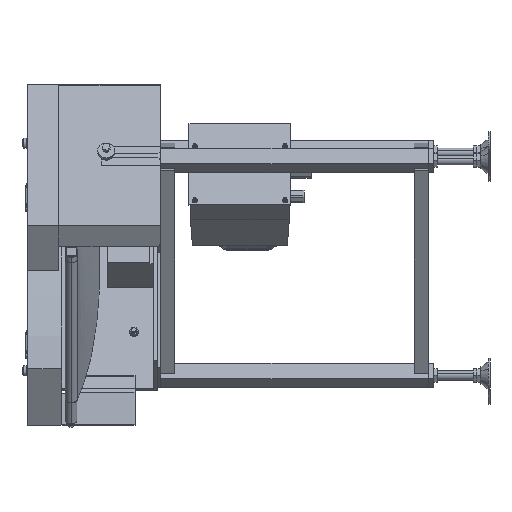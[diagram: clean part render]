
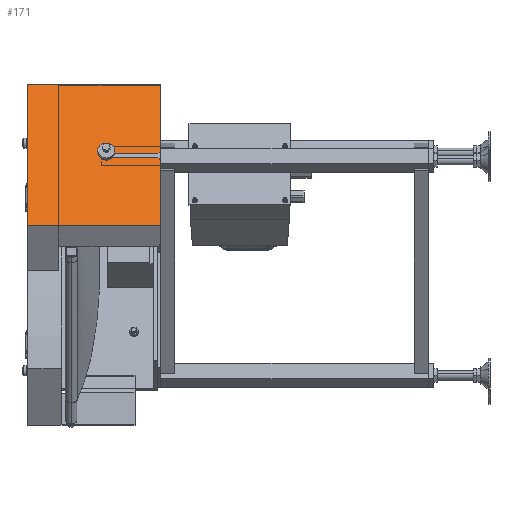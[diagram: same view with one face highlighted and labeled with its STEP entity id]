
A CAD part, left-side view. The second image highlights one B-rep face of the part: STEP entity #171.
In plain terms, the highlighted planar face has unit normal (-0.866, 0, 0.5).
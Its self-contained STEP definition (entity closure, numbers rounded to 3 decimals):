
#171 = ADVANCED_FACE ( 'NONE', ( #46773 ), #35726, .F. ) ;
#571 = EDGE_CURVE ( 'NONE', #21867, #33930, #18959, .T. ) ;
#3759 = ORIENTED_EDGE ( 'NONE', *, *, #31035, .F. ) ;
#6026 = DIRECTION ( 'NONE',  ( 0., 1., 0. ) ) ;
#6388 = CARTESIAN_POINT ( 'NONE',  ( 213.95, -71.1, -128.258 ) ) ;
#6625 = CARTESIAN_POINT ( 'NONE',  ( 288., -167., 0. ) ) ;
#7669 = DIRECTION ( 'NONE',  ( 0.354, 0.707, 0.612 ) ) ;
#7706 = LINE ( 'NONE', #16501, #33686 ) ;
#7731 = CARTESIAN_POINT ( 'NONE',  ( 218.05, -162., -121.157 ) ) ;
#7913 = LINE ( 'NONE', #35891, #45468 ) ;
#8159 = CARTESIAN_POINT ( 'NONE',  ( 216., -167., -124.708 ) ) ;
#8562 = VERTEX_POINT ( 'NONE', #6625 ) ;
#8743 = ORIENTED_EDGE ( 'NONE', *, *, #24738, .F. ) ;
#9110 = DIRECTION ( 'NONE',  ( 0.5, 0., 0.866 ) ) ;
#10217 = CARTESIAN_POINT ( 'NONE',  ( 218.05, -71.1, -121.157 ) ) ;
#10975 = ORIENTED_EDGE ( 'NONE', *, *, #39323, .F. ) ;
#12819 = EDGE_CURVE ( 'NONE', #8562, #36241, #36660, .T. ) ;
#12885 = ORIENTED_EDGE ( 'NONE', *, *, #38303, .F. ) ;
#12904 = VECTOR ( 'NONE', #28386, 1000. ) ;
#13855 = ORIENTED_EDGE ( 'NONE', *, *, #28598, .F. ) ;
#14881 = ORIENTED_EDGE ( 'NONE', *, *, #44804, .T. ) ;
#16501 = CARTESIAN_POINT ( 'NONE',  ( 144., 68., -249.415 ) ) ;
#16740 = DIRECTION ( 'NONE',  ( 0.5, 0., 0.866 ) ) ;
#17219 = VERTEX_POINT ( 'NONE', #34774 ) ;
#18045 = LINE ( 'NONE', #31978, #12904 ) ;
#18337 = CARTESIAN_POINT ( 'NONE',  ( 218.05, -71.1, -121.157 ) ) ;
#18397 = VECTOR ( 'NONE', #24987, 1000. ) ;
#18954 = CARTESIAN_POINT ( 'NONE',  ( 177.725, -234.45, -191.002 ) ) ;
#18959 = LINE ( 'NONE', #35840, #18397 ) ;
#19115 = VECTOR ( 'NONE', #32113, 1000. ) ;
#19346 = VECTOR ( 'NONE', #45734, 1000. ) ;
#20839 = LINE ( 'NONE', #44861, #30054 ) ;
#21867 = VERTEX_POINT ( 'NONE', #47283 ) ;
#22895 = DIRECTION ( 'NONE',  ( 0., -1., 0. ) ) ;
#23197 = LINE ( 'NONE', #31630, #19115 ) ;
#24067 = VERTEX_POINT ( 'NONE', #26897 ) ;
#24608 = LINE ( 'NONE', #18954, #33290 ) ;
#24725 = DIRECTION ( 'NONE',  ( 0.866, 0., -0.5 ) ) ;
#24738 = EDGE_CURVE ( 'NONE', #24067, #8562, #18045, .T. ) ;
#24987 = DIRECTION ( 'NONE',  ( -0.5, 0., -0.866 ) ) ;
#25486 = VERTEX_POINT ( 'NONE', #18337 ) ;
#25738 = AXIS2_PLACEMENT_3D ( 'NONE', #31400, #35152, #16740 ) ;
#26897 = CARTESIAN_POINT ( 'NONE',  ( 288., 68., 0. ) ) ;
#27656 = CARTESIAN_POINT ( 'NONE',  ( 220.55, -167., -116.827 ) ) ;
#28386 = DIRECTION ( 'NONE',  ( 0., -1., 0. ) ) ;
#28410 = CARTESIAN_POINT ( 'NONE',  ( 144., -167., -249.415 ) ) ;
#28598 = EDGE_CURVE ( 'NONE', #17219, #24067, #7706, .T. ) ;
#29396 = AXIS2_PLACEMENT_3D ( 'NONE', #28410, #24725, #36337 ) ;
#30054 = VECTOR ( 'NONE', #22895, 1000. ) ;
#31035 = EDGE_CURVE ( 'NONE', #39250, #46156, #20839, .T. ) ;
#31400 = CARTESIAN_POINT ( 'NONE',  ( 216., -71.1, -124.708 ) ) ;
#31630 = CARTESIAN_POINT ( 'NONE',  ( 182.275, -90.45, -183.121 ) ) ;
#31978 = CARTESIAN_POINT ( 'NONE',  ( 288., -167., 0. ) ) ;
#32113 = DIRECTION ( 'NONE',  ( 0.354, -0.707, 0.612 ) ) ;
#32837 = EDGE_CURVE ( 'NONE', #21867, #46156, #24608, .T. ) ;
#33290 = VECTOR ( 'NONE', #7669, 1000. ) ;
#33686 = VECTOR ( 'NONE', #9110, 1000. ) ;
#33930 = VERTEX_POINT ( 'NONE', #47587 ) ;
#34774 = CARTESIAN_POINT ( 'NONE',  ( 144., 68., -249.415 ) ) ;
#35152 = DIRECTION ( 'NONE',  ( -0.866, 0., 0.5 ) ) ;
#35586 = ORIENTED_EDGE ( 'NONE', *, *, #571, .F. ) ;
#35726 = PLANE ( 'NONE',  #29396 ) ;
#35840 = CARTESIAN_POINT ( 'NONE',  ( 216., -167., -124.708 ) ) ;
#35891 = CARTESIAN_POINT ( 'NONE',  ( 144., -167., -249.415 ) ) ;
#36241 = VERTEX_POINT ( 'NONE', #27656 ) ;
#36262 = EDGE_CURVE ( 'NONE', #25486, #39250, #42181, .T. ) ;
#36337 = DIRECTION ( 'NONE',  ( 0., 1., 0. ) ) ;
#36510 = ORIENTED_EDGE ( 'NONE', *, *, #32837, .T. ) ;
#36660 = LINE ( 'NONE', #8159, #19346 ) ;
#36996 = CARTESIAN_POINT ( 'NONE',  ( 213.95, -162., -128.258 ) ) ;
#38144 = ORIENTED_EDGE ( 'NONE', *, *, #36262, .F. ) ;
#38303 = EDGE_CURVE ( 'NONE', #38504, #25486, #40189, .T. ) ;
#38504 = VERTEX_POINT ( 'NONE', #7731 ) ;
#39250 = VERTEX_POINT ( 'NONE', #6388 ) ;
#39323 = EDGE_CURVE ( 'NONE', #33930, #17219, #7913, .T. ) ;
#39341 = ORIENTED_EDGE ( 'NONE', *, *, #12819, .F. ) ;
#39563 = DIRECTION ( 'NONE',  ( 0., 1., 0. ) ) ;
#40189 = LINE ( 'NONE', #10217, #44856 ) ;
#42181 = CIRCLE ( 'NONE', #25738, 4.1 ) ;
#44042 = EDGE_LOOP ( 'NONE', ( #35586, #36510, #3759, #38144, #12885, #14881, #39341, #8743, #13855, #10975 ) ) ;
#44804 = EDGE_CURVE ( 'NONE', #38504, #36241, #23197, .T. ) ;
#44856 = VECTOR ( 'NONE', #6026, 1000. ) ;
#44861 = CARTESIAN_POINT ( 'NONE',  ( 213.95, -71.1, -128.258 ) ) ;
#45468 = VECTOR ( 'NONE', #39563, 1000. ) ;
#45734 = DIRECTION ( 'NONE',  ( -0.5, 0., -0.866 ) ) ;
#46156 = VERTEX_POINT ( 'NONE', #36996 ) ;
#46773 = FACE_OUTER_BOUND ( 'NONE', #44042, .T. ) ;
#47283 = CARTESIAN_POINT ( 'NONE',  ( 211.45, -167., -132.588 ) ) ;
#47587 = CARTESIAN_POINT ( 'NONE',  ( 144., -167., -249.415 ) ) ;
